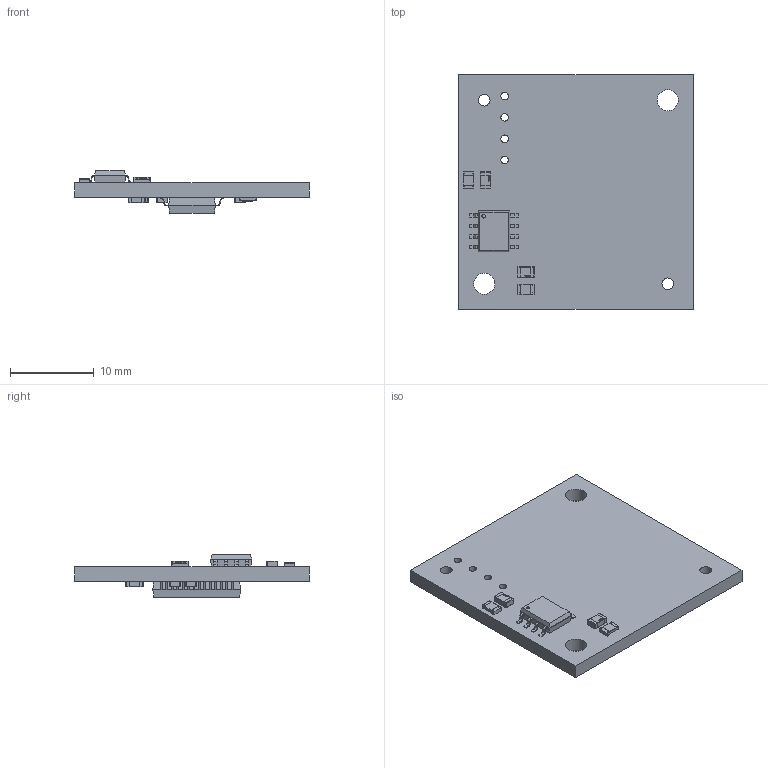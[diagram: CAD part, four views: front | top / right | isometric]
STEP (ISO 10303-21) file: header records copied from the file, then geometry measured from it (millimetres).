
FILE_DESCRIPTION(('Open CASCADE Model'),'2;1');
FILE_NAME('Open CASCADE Shape Model','2021-07-27T14:27:04',('Author'),( 'Open CASCADE'),'Open CASCADE STEP processor 6.8','Open CASCADE 6.8' ,'Unknown');
FILE_SCHEMA(('AUTOMOTIVE_DESIGN { 1 0 10303 214 1 1 1 1 }'));
Length unit declared in the file: millimetre
Products named in the file (20): PCB; Board; C1; C0805; C2; C3; C4; C5; C7; IC2; SW3dPS-SSOP-28; IC3; SW3DPS-SO-8-DEFAULT; L1; SW3dPS-R0805; R2; R3; C8; R1; C9
Assembly tree (29 placements, depth 3):
  PCB
    Board
    C1
      C0805
    C2
      C0805
    C3
      C0805
    C4
      C0805
    C5
      C0805
    C7
      C0805
    IC2
      SW3dPS-SSOP-28
    IC3
      SW3DPS-SO-8-DEFAULT
    L1
      SW3dPS-R0805
    R2
      SW3dPS-R0805
    R3
      SW3dPS-R0805
    C8
      C0805
    R1
      SW3dPS-R0805
    C9
      C0805
Bounding box: 28 x 28 x 5.06 mm (x, y, z)
Volume: 1446.9 mm3; surface area: 2313.9 mm2
Topology: 60 solids, 60 shells, 1734 faces, 4448 edges, 2840 vertices
Faces by surface type: plane 882, bspline 480, cylinder 372
Full cylindrical faces by diameter (mm): 0.9 x4, 1.4 x2, 2.5 x2
Entity records: 32777 total; most frequent: CARTESIAN_POINT 9031, ORIENTED_EDGE 4130, DIRECTION 3913, EDGE_CURVE 2065, LINE 1497, VECTOR 1497, VERTEX_POINT 1358, AXIS2_PLACEMENT_3D 1208
